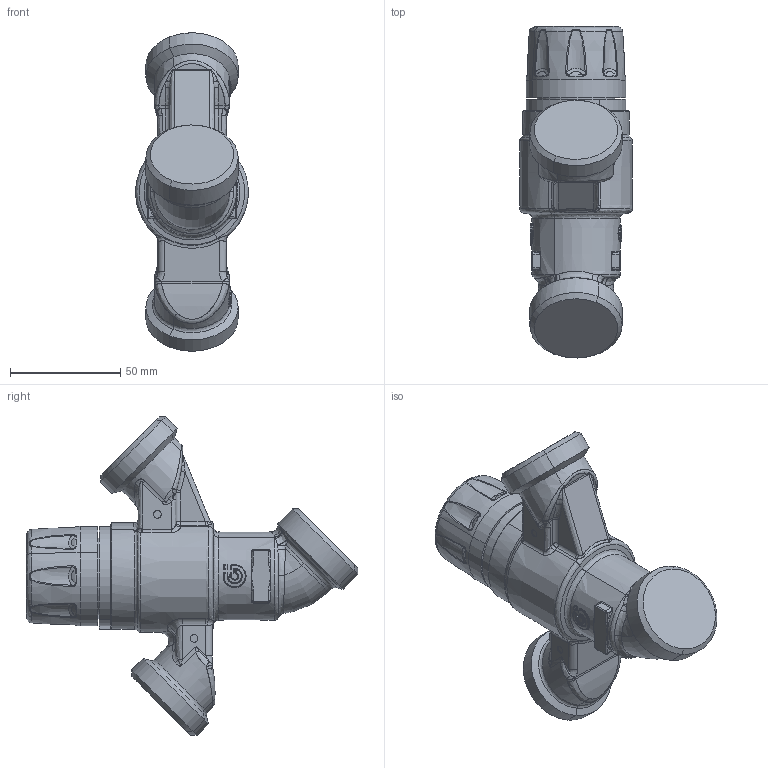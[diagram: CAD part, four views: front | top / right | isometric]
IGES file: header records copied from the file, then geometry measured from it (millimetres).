
Start section: START RECORD GO HERE.
Global section: file name: IGES_520061A_CST_-_TST.igs; native system: DASSAULT SYSTEMES CATIA Version 5-6 Release 2019 - www.3ds.com; preprocessor: V5-6R2019_5.29.3.0.06-20-2019.20.00; author: Advantage; organization: CALEFFI; date: 20200610.175612; units: millimetre
Bounding box: 50.99 x 150.25 x 144.1 mm (x, y, z)
Surface area: 36096.3 mm2 (no closed solid volume)
Topology: 0 solids, 0 shells, 921 faces, 4113 edges, 4074 vertices
Faces by surface type: revolution 542, bspline 249, plane 130
